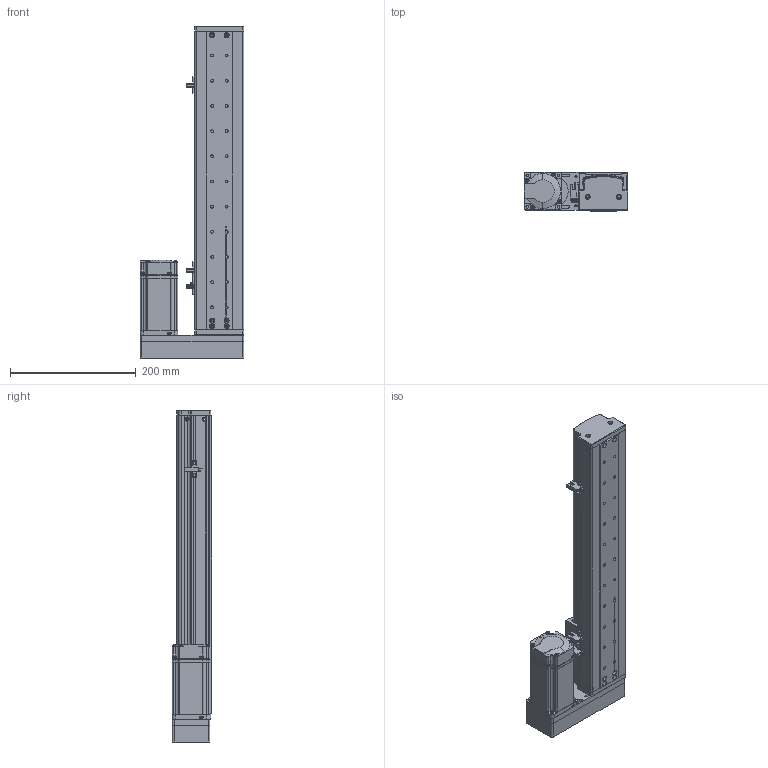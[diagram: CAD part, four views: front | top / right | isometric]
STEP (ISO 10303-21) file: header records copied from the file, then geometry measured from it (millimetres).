
FILE_DESCRIPTION (( 'STEP AP214' ), '1' );
FILE_NAME ('KSD75S-S320-MR-CM.STEP', '2019-10-18T07:13:40', ( '微软用户' ), ( '微软中国' ), 'SwSTEP 2.0', 'SolidWorks 2014', '' );
FILE_SCHEMA (( 'AUTOMOTIVE_DESIGN' ));
Length unit declared in the file: millimetre
Products named in the file (13): 75遵賑雄釱; MGW15H賑寢320俴最 ; 320俴最; KSD75S-S320-MR-CM; MHMD042G1CA_2_03; 75宽模组保护罩左右折; 75宽马达安装板连板左右折丝杆; 覜茼え100遵圉猾敕; U倰嫖萇EEㄜSX672; 綴傷啣 ; ヶ傷啣; 75裔啣-320俴最; 75遵耀郪耜啣-320俴最
Assembly tree (15 placements, depth 3):
  KSD75S-S320-MR-CM
    MGW15H賑寢320俴最 
      320俴最
    75遵賑雄釱
    75遵耀郪耜啣-320俴最  x2
    75裔啣-320俴最
    ヶ傷啣
    綴傷啣 
    U倰嫖萇EEㄜSX672  x3
    覜茼え100遵圉猾敕
    75宽马达安装板连板左右折丝杆
    75宽模组保护罩左右折
    MHMD042G1CA_2_03
Bounding box: 165 x 63 x 527.5 mm (x, y, z)
Volume: 761386.5 mm3; surface area: 478128.5 mm2
Topology: 13 solids, 14 shells, 1443 faces, 4090 edges, 2669 vertices
Faces by surface type: cylinder 675, plane 621, cone 129, bspline 18
Entity records: 46302 total; most frequent: CARTESIAN_POINT 8818, DIRECTION 6884, ORIENTED_EDGE 6460, EDGE_CURVE 3301, AXIS2_PLACEMENT_3D 2514, VERTEX_POINT 2187, VECTOR 1856, LINE 1856
